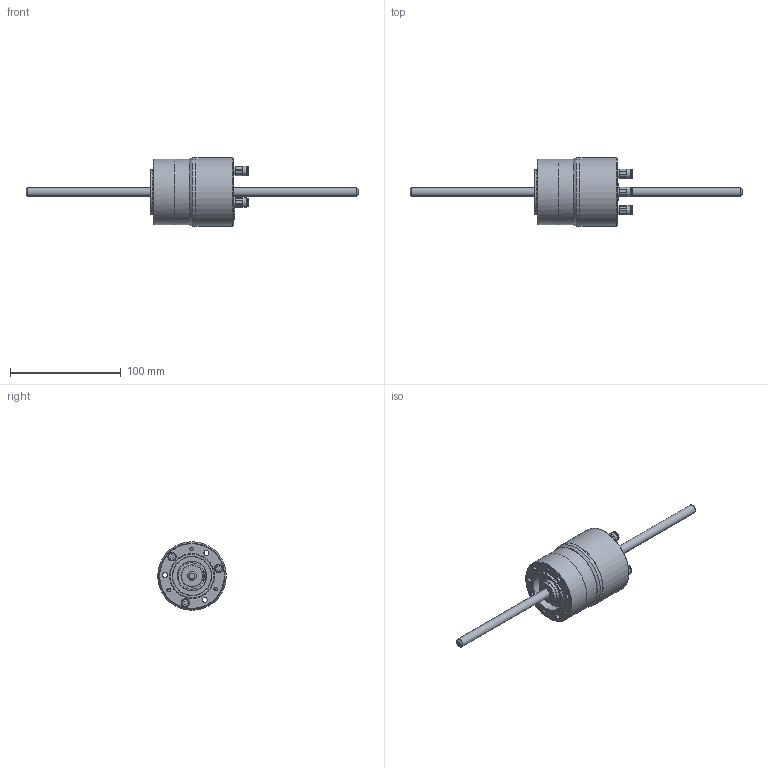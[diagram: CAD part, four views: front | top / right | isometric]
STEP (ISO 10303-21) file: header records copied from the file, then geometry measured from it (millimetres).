
FILE_DESCRIPTION(/* description */ (''),/* implementation_level */ '2;1');
FILE_NAME(/* name */ 'G:\02 CAD Dateien\02 - CAD Schrittmotoren BPS\01 - Standart Produkte\BPS 1620-23\Verkaufsunterlagen\STEP ab JULI 2017\500-16-352 Schrittmotor BPS-1620-SR2.stp',/* time_stamp */ '2017-12-20T08:43:03+01:00',/* author */ ('RSc'),/* organization */ (''),/* preprocessor_version */ 'ST-DEVELOPER v16.1',/* originating_system */ 'Autodesk Inventor 2016',/* authorisation */ '');
FILE_SCHEMA (('AUTOMOTIVE_DESIGN { 1 0 10303 214 3 1 1 }'));
Length unit declared in the file: millimetre
Products named in the file (3): Bauteil2; 500-16-295 Spindel 8x2; Baugruppe1
Assembly tree (2 placements, depth 2):
  Baugruppe1
    Bauteil2
    500-16-295 Spindel 8x2
Bounding box: 300 x 62 x 62 mm (x, y, z)
Volume: 212454.1 mm3; surface area: 42251.3 mm2
Topology: 13 solids, 18 shells, 339 faces, 826 edges, 537 vertices
Faces by surface type: plane 161, cylinder 65, cone 37, torus 34, bspline 31, sphere 11
Full cylindrical faces by diameter (mm): 2 x2, 3 x1, 3.242 x3, 4 x6, 4.5 x6, 5.2 x3, 6.65 x1, 7 x3, 7.5 x3, 7.8 x3, 8 x1, 8.1 x3, 8.5 x3, 9 x1, 10.5 x1, 16 x1, 19 x1, 19.5 x1, 20 x2, 25.325 x1, 26.657 x1, 26.857 x1, 35 x1, 35.343 x1, 36.675 x1, 38.675 x1, 40 x1, 42 x1, 59 x2, 62 x2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
Entity records: 9703 total; most frequent: CARTESIAN_POINT 1976, DIRECTION 1491, ORIENTED_EDGE 1390, EDGE_CURVE 673, AXIS2_PLACEMENT_3D 603, EDGE_LOOP 497, VERTEX_POINT 484, ADVANCED_FACE 339
